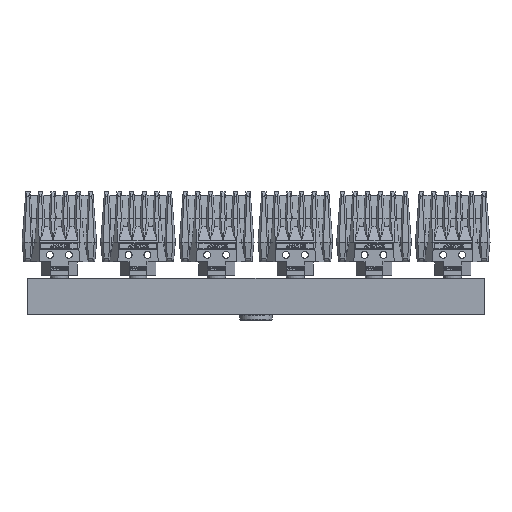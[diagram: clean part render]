
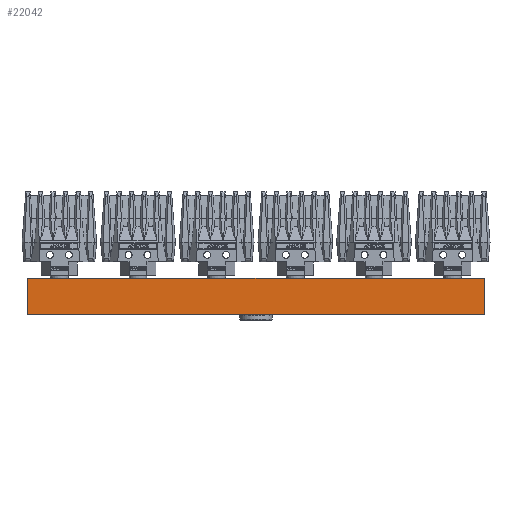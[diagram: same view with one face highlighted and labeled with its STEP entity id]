
A CAD part, top view. The second image highlights one B-rep face of the part: STEP entity #22042.
In plain terms, the highlighted planar face has unit normal (0, 0, 1).
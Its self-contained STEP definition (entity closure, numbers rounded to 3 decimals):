
#223 = EDGE_CURVE ( 'NONE', #533, #9369, #21951, .T. ) ;
#229 = VECTOR ( 'NONE', #16609, 1000. ) ;
#351 = DIRECTION ( 'NONE',  ( 0., -1., 0. ) ) ;
#354 = DIRECTION ( 'NONE',  ( -1., 0., 0. ) ) ;
#533 = VERTEX_POINT ( 'NONE', #25062 ) ;
#723 = CARTESIAN_POINT ( 'NONE',  ( 145., -11.5, 11.5 ) ) ;
#1265 = EDGE_CURVE ( 'NONE', #533, #15323, #18193, .T. ) ;
#1572 = FACE_OUTER_BOUND ( 'NONE', #25182, .T. ) ;
#2316 = VERTEX_POINT ( 'NONE', #24837 ) ;
#2503 = VECTOR ( 'NONE', #354, 1000. ) ;
#3756 = CARTESIAN_POINT ( 'NONE',  ( -145., 11.5, 11.5 ) ) ;
#4398 = DIRECTION ( 'NONE',  ( 0., -1., 0. ) ) ;
#5724 = CARTESIAN_POINT ( 'NONE',  ( 145., 11.5, 11.5 ) ) ;
#5844 = PLANE ( 'NONE',  #9894 ) ;
#6345 = CARTESIAN_POINT ( 'NONE',  ( -145., 11.5, 11.5 ) ) ;
#7338 = ORIENTED_EDGE ( 'NONE', *, *, #14306, .T. ) ;
#7643 = VECTOR ( 'NONE', #4398, 1000. ) ;
#9369 = VERTEX_POINT ( 'NONE', #22321 ) ;
#9869 = LINE ( 'NONE', #6345, #7643 ) ;
#9894 = AXIS2_PLACEMENT_3D ( 'NONE', #5724, #11453, #11579 ) ;
#10674 = ORIENTED_EDGE ( 'NONE', *, *, #223, .F. ) ;
#11453 = DIRECTION ( 'NONE',  ( 0., 0., -1. ) ) ;
#11579 = DIRECTION ( 'NONE',  ( 0., 1., 0. ) ) ;
#12683 = LINE ( 'NONE', #723, #229 ) ;
#14306 = EDGE_CURVE ( 'NONE', #15323, #2316, #9869, .T. ) ;
#15323 = VERTEX_POINT ( 'NONE', #3756 ) ;
#15847 = CARTESIAN_POINT ( 'NONE',  ( 145., 11.5, 11.5 ) ) ;
#16110 = CARTESIAN_POINT ( 'NONE',  ( 145., 11.5, 11.5 ) ) ;
#16609 = DIRECTION ( 'NONE',  ( -1., 0., 0. ) ) ;
#18163 = EDGE_CURVE ( 'NONE', #9369, #2316, #12683, .T. ) ;
#18193 = LINE ( 'NONE', #16110, #2503 ) ;
#18681 = ORIENTED_EDGE ( 'NONE', *, *, #1265, .T. ) ;
#21243 = ORIENTED_EDGE ( 'NONE', *, *, #18163, .F. ) ;
#21951 = LINE ( 'NONE', #15847, #24578 ) ;
#22042 = ADVANCED_FACE ( 'NONE', ( #1572 ), #5844, .F. ) ;
#22321 = CARTESIAN_POINT ( 'NONE',  ( 145., -11.5, 11.5 ) ) ;
#24578 = VECTOR ( 'NONE', #351, 1000. ) ;
#24837 = CARTESIAN_POINT ( 'NONE',  ( -145., -11.5, 11.5 ) ) ;
#25062 = CARTESIAN_POINT ( 'NONE',  ( 145., 11.5, 11.5 ) ) ;
#25182 = EDGE_LOOP ( 'NONE', ( #7338, #21243, #10674, #18681 ) ) ;
